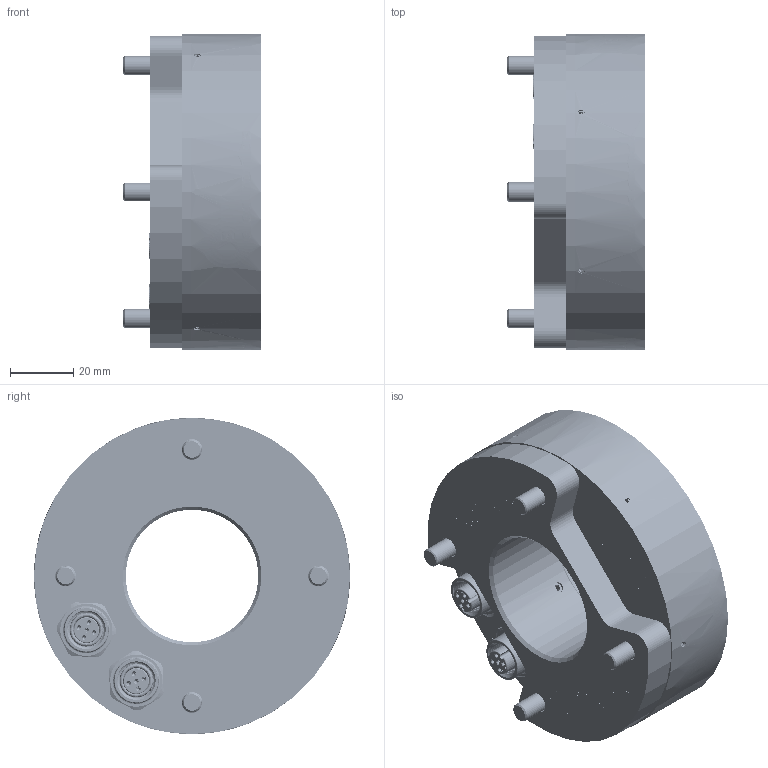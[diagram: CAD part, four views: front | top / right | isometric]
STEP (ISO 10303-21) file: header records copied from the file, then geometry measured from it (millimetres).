
FILE_DESCRIPTION (( 'STEP AP203' ), '1' );
FILE_NAME ('0E012337_IC-REMOTE F 100_50_zum_Versenden.STEP', '2023-12-20T07:51:16', ( '' ), ( '' ), 'SwSTEP 2.0', 'SolidWorks 2023', '' );
FILE_SCHEMA (( 'CONFIG_CONTROL_DESIGN' ));
Length unit declared in the file: millimetre
Products named in the file (1): 0E012337_IC-REMOTE F 100_50_zum_Versenden
Bounding box: 43.4 x 100 x 100 mm (x, y, z)
Surface area: 85561.1 mm2 (no closed solid volume)
Topology: 0 solids, 59 shells, 6623 faces, 19025 edges, 13058 vertices
Faces by surface type: plane 3633, bspline 2232, cylinder 546, cone 180, torus 32
Entity records: 337472 total; most frequent: CARTESIAN_POINT 179392, ORIENTED_EDGE 36974, DIRECTION 23933, EDGE_CURVE 19001, VERTEX_POINT 13058, LINE 12139, VECTOR 12139, EDGE_LOOP 7425
